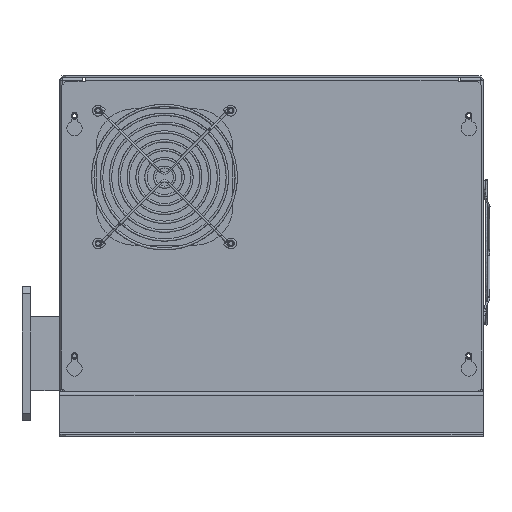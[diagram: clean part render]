
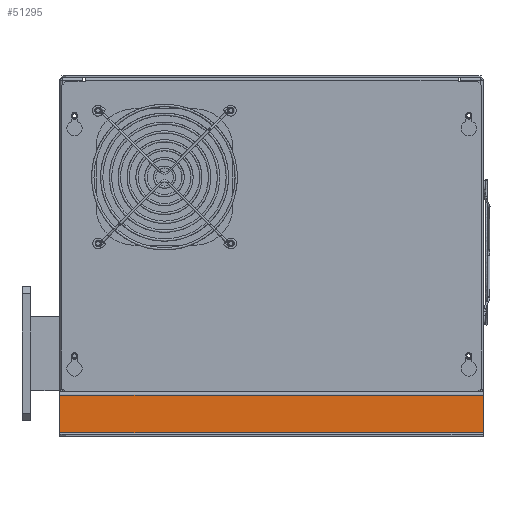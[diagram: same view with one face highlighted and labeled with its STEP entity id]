
A CAD part, front view. The second image highlights one B-rep face of the part: STEP entity #51295.
In plain terms, the highlighted planar face has unit normal (0, -1, 0).
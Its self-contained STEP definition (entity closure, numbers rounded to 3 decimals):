
#48763 = CYLINDRICAL_SURFACE('',#48764,2.5);
#48764 = AXIS2_PLACEMENT_3D('',#48765,#48766,#48767);
#48765 = CARTESIAN_POINT('',(0.,-102.5,-2.5));
#48766 = DIRECTION('',(1.,0.,0.));
#48767 = DIRECTION('',(0.,0.,1.));
#50375 = VERTEX_POINT('',#50376);
#50376 = CARTESIAN_POINT('',(0.,-105.,-2.5));
#50390 = PLANE('',#50391);
#50391 = AXIS2_PLACEMENT_3D('',#50392,#50393,#50394);
#50392 = CARTESIAN_POINT('',(0.,-105.,-35.));
#50393 = DIRECTION('',(1.,0.,0.));
#50394 = DIRECTION('',(0.,0.,1.));
#50461 = EDGE_CURVE('',#50375,#50462,#50464,.T.);
#50462 = VERTEX_POINT('',#50463);
#50463 = CARTESIAN_POINT('',(335.,-105.,-2.5));
#50464 = SURFACE_CURVE('',#50465,(#50469,#50476),.PCURVE_S1.);
#50465 = LINE('',#50466,#50467);
#50466 = CARTESIAN_POINT('',(0.,-105.,-2.5));
#50467 = VECTOR('',#50468,1.);
#50468 = DIRECTION('',(1.,0.,0.));
#50469 = PCURVE('',#48763,#50470);
#50470 = DEFINITIONAL_REPRESENTATION('',(#50471),#50475);
#50471 = LINE('',#50472,#50473);
#50472 = CARTESIAN_POINT('',(1.571,0.));
#50473 = VECTOR('',#50474,1.);
#50474 = DIRECTION('',(0.,1.));
#50475 = ( GEOMETRIC_REPRESENTATION_CONTEXT(2) 
PARAMETRIC_REPRESENTATION_CONTEXT() REPRESENTATION_CONTEXT('2D SPACE',''
  ) );
#50476 = PCURVE('',#50477,#50482);
#50477 = PLANE('',#50478);
#50478 = AXIS2_PLACEMENT_3D('',#50479,#50480,#50481);
#50479 = CARTESIAN_POINT('',(167.5,-105.,-18.75));
#50480 = DIRECTION('',(-0.,1.,-0.));
#50481 = DIRECTION('',(-1.,0.,0.));
#50482 = DEFINITIONAL_REPRESENTATION('',(#50483),#50487);
#50483 = LINE('',#50484,#50485);
#50484 = CARTESIAN_POINT('',(167.5,16.25));
#50485 = VECTOR('',#50486,1.);
#50486 = DIRECTION('',(-1.,0.));
#50487 = ( GEOMETRIC_REPRESENTATION_CONTEXT(2) 
PARAMETRIC_REPRESENTATION_CONTEXT() REPRESENTATION_CONTEXT('2D SPACE',''
  ) );
#51191 = EDGE_CURVE('',#51192,#50375,#51194,.T.);
#51192 = VERTEX_POINT('',#51193);
#51193 = CARTESIAN_POINT('',(0.,-105.,-32.5));
#51194 = SURFACE_CURVE('',#51195,(#51199,#51206),.PCURVE_S1.);
#51195 = LINE('',#51196,#51197);
#51196 = CARTESIAN_POINT('',(0.,-105.,-35.));
#51197 = VECTOR('',#51198,1.);
#51198 = DIRECTION('',(0.,0.,1.));
#51199 = PCURVE('',#50390,#51200);
#51200 = DEFINITIONAL_REPRESENTATION('',(#51201),#51205);
#51201 = LINE('',#51202,#51203);
#51202 = CARTESIAN_POINT('',(0.,0.));
#51203 = VECTOR('',#51204,1.);
#51204 = DIRECTION('',(1.,0.));
#51205 = ( GEOMETRIC_REPRESENTATION_CONTEXT(2) 
PARAMETRIC_REPRESENTATION_CONTEXT() REPRESENTATION_CONTEXT('2D SPACE',''
  ) );
#51206 = PCURVE('',#50477,#51207);
#51207 = DEFINITIONAL_REPRESENTATION('',(#51208),#51212);
#51208 = LINE('',#51209,#51210);
#51209 = CARTESIAN_POINT('',(167.5,-16.25));
#51210 = VECTOR('',#51211,1.);
#51211 = DIRECTION('',(0.,1.));
#51212 = ( GEOMETRIC_REPRESENTATION_CONTEXT(2) 
PARAMETRIC_REPRESENTATION_CONTEXT() REPRESENTATION_CONTEXT('2D SPACE',''
  ) );
#51282 = PLANE('',#51283);
#51283 = AXIS2_PLACEMENT_3D('',#51284,#51285,#51286);
#51284 = CARTESIAN_POINT('',(335.,-105.,-2.5));
#51285 = DIRECTION('',(-1.,0.,-0.));
#51286 = DIRECTION('',(0.,0.,-1.));
#51295 = ADVANCED_FACE('',(#51296),#50477,.F.);
#51296 = FACE_BOUND('',#51297,.F.);
#51297 = EDGE_LOOP('',(#51298,#51299,#51300,#51323));
#51298 = ORIENTED_EDGE('',*,*,#51191,.T.);
#51299 = ORIENTED_EDGE('',*,*,#50461,.T.);
#51300 = ORIENTED_EDGE('',*,*,#51301,.T.);
#51301 = EDGE_CURVE('',#50462,#51302,#51304,.T.);
#51302 = VERTEX_POINT('',#51303);
#51303 = CARTESIAN_POINT('',(335.,-105.,-32.5));
#51304 = SURFACE_CURVE('',#51305,(#51309,#51316),.PCURVE_S1.);
#51305 = LINE('',#51306,#51307);
#51306 = CARTESIAN_POINT('',(335.,-105.,-2.5));
#51307 = VECTOR('',#51308,1.);
#51308 = DIRECTION('',(0.,0.,-1.));
#51309 = PCURVE('',#50477,#51310);
#51310 = DEFINITIONAL_REPRESENTATION('',(#51311),#51315);
#51311 = LINE('',#51312,#51313);
#51312 = CARTESIAN_POINT('',(-167.5,16.25));
#51313 = VECTOR('',#51314,1.);
#51314 = DIRECTION('',(0.,-1.));
#51315 = ( GEOMETRIC_REPRESENTATION_CONTEXT(2) 
PARAMETRIC_REPRESENTATION_CONTEXT() REPRESENTATION_CONTEXT('2D SPACE',''
  ) );
#51316 = PCURVE('',#51282,#51317);
#51317 = DEFINITIONAL_REPRESENTATION('',(#51318),#51322);
#51318 = LINE('',#51319,#51320);
#51319 = CARTESIAN_POINT('',(0.,0.));
#51320 = VECTOR('',#51321,1.);
#51321 = DIRECTION('',(1.,0.));
#51322 = ( GEOMETRIC_REPRESENTATION_CONTEXT(2) 
PARAMETRIC_REPRESENTATION_CONTEXT() REPRESENTATION_CONTEXT('2D SPACE',''
  ) );
#51323 = ORIENTED_EDGE('',*,*,#51324,.F.);
#51324 = EDGE_CURVE('',#51192,#51302,#51325,.T.);
#51325 = SURFACE_CURVE('',#51326,(#51330,#51337),.PCURVE_S1.);
#51326 = LINE('',#51327,#51328);
#51327 = CARTESIAN_POINT('',(0.,-105.,-32.5));
#51328 = VECTOR('',#51329,1.);
#51329 = DIRECTION('',(1.,0.,0.));
#51330 = PCURVE('',#50477,#51331);
#51331 = DEFINITIONAL_REPRESENTATION('',(#51332),#51336);
#51332 = LINE('',#51333,#51334);
#51333 = CARTESIAN_POINT('',(167.5,-13.75));
#51334 = VECTOR('',#51335,1.);
#51335 = DIRECTION('',(-1.,0.));
#51336 = ( GEOMETRIC_REPRESENTATION_CONTEXT(2) 
PARAMETRIC_REPRESENTATION_CONTEXT() REPRESENTATION_CONTEXT('2D SPACE',''
  ) );
#51337 = PCURVE('',#51338,#51343);
#51338 = CYLINDRICAL_SURFACE('',#51339,1.);
#51339 = AXIS2_PLACEMENT_3D('',#51340,#51341,#51342);
#51340 = CARTESIAN_POINT('',(0.,-106.,-32.5));
#51341 = DIRECTION('',(1.,0.,0.));
#51342 = DIRECTION('',(0.,1.,0.));
#51343 = DEFINITIONAL_REPRESENTATION('',(#51344),#51348);
#51344 = LINE('',#51345,#51346);
#51345 = CARTESIAN_POINT('',(-0.,0.));
#51346 = VECTOR('',#51347,1.);
#51347 = DIRECTION('',(-0.,1.));
#51348 = ( GEOMETRIC_REPRESENTATION_CONTEXT(2) 
PARAMETRIC_REPRESENTATION_CONTEXT() REPRESENTATION_CONTEXT('2D SPACE',''
  ) );
